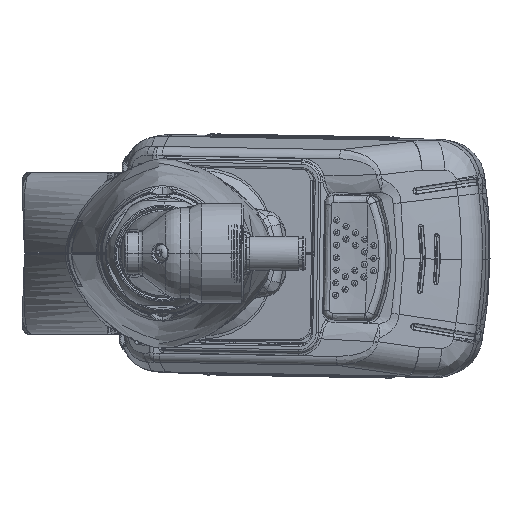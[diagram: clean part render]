
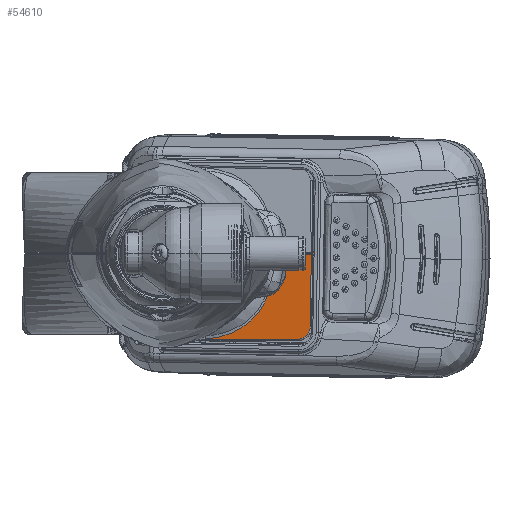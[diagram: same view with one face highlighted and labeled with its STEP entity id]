
A CAD part, left-side view. The second image highlights one B-rep face of the part: STEP entity #54610.
In plain terms, the highlighted planar face has unit normal (-0.99, 0.139, -0.035).
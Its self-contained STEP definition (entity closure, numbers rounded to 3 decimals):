
#5918 = LINE ( 'NONE', #149343, #87136 ) ;
#9672 = LINE ( 'NONE', #73989, #46161 ) ;
#13048 = ORIENTED_EDGE ( 'NONE', *, *, #79817, .F. ) ;
#13106 = CARTESIAN_POINT ( 'NONE',  ( 311.115, -35.272, -0.71 ) ) ;
#14138 = CARTESIAN_POINT ( 'NONE',  ( 311.655, -34.165, -11.63 ) ) ;
#15177 = CARTESIAN_POINT ( 'NONE',  ( 313.456, -24.5, -24.171 ) ) ;
#17259 = CARTESIAN_POINT ( 'NONE',  ( 311.153, -35.307, -1.939 ) ) ;
#17715 = CARTESIAN_POINT ( 'NONE',  ( 310.241, -47.172, -23.37 ) ) ;
#22452 = VERTEX_POINT ( 'NONE', #113402 ) ;
#24093 = CARTESIAN_POINT ( 'NONE',  ( 310.934, -43.23, -27.318 ) ) ;
#28931 = CARTESIAN_POINT ( 'NONE',  ( 311.167, -35.306, -2.348 ) ) ;
#29968 = CARTESIAN_POINT ( 'NONE',  ( 311.126, -35.29, -1.119 ) ) ;
#32040 = CARTESIAN_POINT ( 'NONE',  ( 312.23, -31.574, -17.595 ) ) ;
#33075 = CARTESIAN_POINT ( 'NONE',  ( 314.496, -17.747, -26.769 ) ) ;
#38690 = EDGE_LOOP ( 'NONE', ( #13048, #85365, #163902, #125292, #47448 ) ) ;
#41307 = DIRECTION ( 'NONE',  ( 0.139, 0.99, 0. ) ) ;
#45773 = CARTESIAN_POINT ( 'NONE',  ( 311.781, -33.66, -13.178 ) ) ;
#46161 = VECTOR ( 'NONE', #41307, 1000. ) ;
#47448 = ORIENTED_EDGE ( 'NONE', *, *, #152399, .F. ) ;
#48883 = CARTESIAN_POINT ( 'NONE',  ( 311.884, -33.216, -14.326 ) ) ;
#51105 = PLANE ( 'NONE',  #106331 ) ;
#54610 = ADVANCED_FACE ( 'NONE', ( #130199 ), #51105, .T. ) ;
#56804 = EDGE_CURVE ( 'NONE', #140802, #171446, #9672, .T. ) ;
#58176 = CARTESIAN_POINT ( 'NONE',  ( 310.934, -43.23, -27.318 ) ) ;
#61311 = CARTESIAN_POINT ( 'NONE',  ( 310.242, -47.171, -23.387 ) ) ;
#61624 = CARTESIAN_POINT ( 'NONE',  ( 312.605, -29.543, -20.135 ) ) ;
#62343 = CARTESIAN_POINT ( 'NONE',  ( 310.327, -47.143, -25.698 ) ) ;
#63527 = CARTESIAN_POINT ( 'NONE',  ( 309.387, -47.458, -0.3 ) ) ;
#64720 = CARTESIAN_POINT ( 'NONE',  ( 314.847, -15.351, -27.172 ) ) ;
#73989 = CARTESIAN_POINT ( 'NONE',  ( 318.216, 8.58, -27.318 ) ) ;
#74460 = CARTESIAN_POINT ( 'NONE',  ( 315.08, -13.735, -27.318 ) ) ;
#78171 = EDGE_CURVE ( 'NONE', #181581, #97905, #177953, .T. ) ;
#78467 = CARTESIAN_POINT ( 'NONE',  ( 313.916, -21.592, -25.627 ) ) ;
#79487 = CARTESIAN_POINT ( 'NONE',  ( 312.91, -27.799, -21.843 ) ) ;
#79817 = EDGE_CURVE ( 'NONE', #171446, #22452, #87322, .T. ) ;
#80532 = CARTESIAN_POINT ( 'NONE',  ( 314.964, -14.542, -27.259 ) ) ;
#85365 = ORIENTED_EDGE ( 'NONE', *, *, #56804, .F. ) ;
#87136 = VECTOR ( 'NONE', #102941, 1000. ) ;
#87322 = B_SPLINE_CURVE_WITH_KNOTS ( 'NONE', 3,
 ( #143753, #109044, #80532, #64720, #173344, #129028, #33075, #161641, #78467, #144794, #15177, #95313, #141706, #79487, #157516, #193320, #61624, #206045, #191243, #32040, #125915, #48883, #145844, #45773, #208105, #14138, #110079, #142746, #190218, #159573, #174387, #28931, #17259, #29968, #13106, #127999 ),
 .UNSPECIFIED., .F., .F.,
 ( 4, 2, 2, 2, 2, 2, 2, 2, 2, 2, 2, 2, 2, 2, 2, 2, 2, 4 ),
 ( 0.034, 0.036, 0.037, 0.039, 0.044, 0.047, 0.049, 0.051, 0.053, 0.054, 0.059, 0.06, 0.061, 0.064, 0.069, 0.071, 0.072, 0.073 ),
 .UNSPECIFIED. ) ;
#95313 = CARTESIAN_POINT ( 'NONE',  ( 313.232, -25.874, -23.312 ) ) ;
#97905 = VERTEX_POINT ( 'NONE', #157028 ) ;
#102941 = DIRECTION ( 'NONE',  ( -0.139, -0.99, 0. ) ) ;
#106331 = AXIS2_PLACEMENT_3D ( 'NONE', #145975, #113293, #133281 ) ;
#109044 = CARTESIAN_POINT ( 'NONE',  ( 315.022, -14.138, -27.293 ) ) ;
#110079 = CARTESIAN_POINT ( 'NONE',  ( 311.598, -34.373, -10.845 ) ) ;
#113293 = DIRECTION ( 'NONE',  ( -0.99, 0.139, -0.035 ) ) ;
#113402 = CARTESIAN_POINT ( 'NONE',  ( 311.104, -35.243, -0.3 ) ) ;
#125292 = ORIENTED_EDGE ( 'NONE', *, *, #78171, .F. ) ;
#125915 = CARTESIAN_POINT ( 'NONE',  ( 312.066, -32.391, -16.198 ) ) ;
#127999 = CARTESIAN_POINT ( 'NONE',  ( 311.104, -35.243, -0.3 ) ) ;
#129028 = CARTESIAN_POINT ( 'NONE',  ( 314.613, -16.958, -26.931 ) ) ;
#130199 = FACE_OUTER_BOUND ( 'NONE', #38690, .T. ) ;
#131093 = VECTOR ( 'NONE', #160026, 1000. ) ;
#133281 = DIRECTION ( 'NONE',  ( 0.035, -0.005, -0.999 ) ) ;
#140802 = VERTEX_POINT ( 'NONE', #24093 ) ;
#141706 = CARTESIAN_POINT ( 'NONE',  ( 313.123, -26.535, -22.847 ) ) ;
#142746 = CARTESIAN_POINT ( 'NONE',  ( 311.441, -34.896, -8.468 ) ) ;
#143753 = CARTESIAN_POINT ( 'NONE',  ( 315.08, -13.735, -27.318 ) ) ;
#144794 = CARTESIAN_POINT ( 'NONE',  ( 313.571, -23.781, -24.567 ) ) ;
#145844 = CARTESIAN_POINT ( 'NONE',  ( 311.848, -33.371, -13.944 ) ) ;
#145975 = CARTESIAN_POINT ( 'NONE',  ( 309.642, -52.548, -27.8 ) ) ;
#149343 = CARTESIAN_POINT ( 'NONE',  ( 308.691, -52.415, -0.3 ) ) ;
#152399 = EDGE_CURVE ( 'NONE', #22452, #181581, #5918, .T. ) ;
#157028 = CARTESIAN_POINT ( 'NONE',  ( 310.242, -47.171, -23.387 ) ) ;
#157516 = CARTESIAN_POINT ( 'NONE',  ( 312.806, -28.403, -21.304 ) ) ;
#159573 = CARTESIAN_POINT ( 'NONE',  ( 311.244, -35.274, -4.396 ) ) ;
#160026 = DIRECTION ( 'NONE',  ( 0.037, 0.012, -0.999 ) ) ;
#161641 = CARTESIAN_POINT ( 'NONE',  ( 314.147, -20.082, -26.171 ) ) ;
#163902 = ORIENTED_EDGE ( 'NONE', *, *, #168945, .F. ) ;
#168945 = EDGE_CURVE ( 'NONE', #97905, #140802, #185758, .T. ) ;
#171446 = VERTEX_POINT ( 'NONE', #74460 ) ;
#172001 = CARTESIAN_POINT ( 'NONE',  ( 310.613, -45.518, -27.318 ) ) ;
#173344 = CARTESIAN_POINT ( 'NONE',  ( 314.789, -15.756, -27.119 ) ) ;
#174387 = CARTESIAN_POINT ( 'NONE',  ( 311.211, -35.301, -3.577 ) ) ;
#177953 = LINE ( 'NONE', #17715, #131093 ) ;
#181581 = VERTEX_POINT ( 'NONE', #63527 ) ;
#185758 =( BOUNDED_CURVE ( )  B_SPLINE_CURVE ( 3, ( #61311, #62343, #172001, #58176 ),
 .UNSPECIFIED., .F., .F. ) 
 B_SPLINE_CURVE_WITH_KNOTS ( ( 4, 4 ),
 ( 1.588, 3.142 ),
 .UNSPECIFIED. ) 
 CURVE ( )  GEOMETRIC_REPRESENTATION_ITEM ( )  RATIONAL_B_SPLINE_CURVE ( ( 1., 0.809, 0.809, 1. ) ) 
 REPRESENTATION_ITEM ( '' )  );
#190218 = CARTESIAN_POINT ( 'NONE',  ( 311.354, -35.111, -6.852 ) ) ;
#191243 = CARTESIAN_POINT ( 'NONE',  ( 312.46, -30.339, -19.204 ) ) ;
#193320 = CARTESIAN_POINT ( 'NONE',  ( 312.655, -29.263, -20.436 ) ) ;
#206045 = CARTESIAN_POINT ( 'NONE',  ( 312.507, -30.081, -19.519 ) ) ;
#208105 = CARTESIAN_POINT ( 'NONE',  ( 311.748, -33.793, -12.793 ) ) ;
